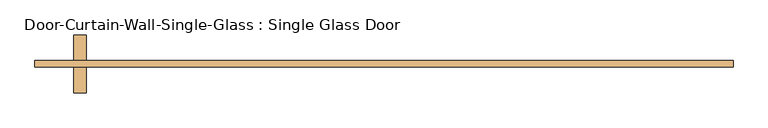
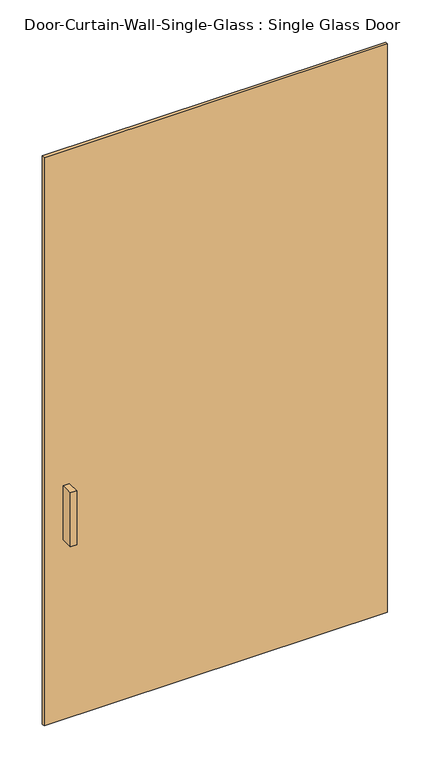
"""IFC4 building model written with IfcOpenShell, lengths in millimetres: door geometry, Door-Curtain-Wall-Single-Glass : Single Glass Door."""

from ifc_helpers import new_model, si_unit, frame, origin, origin_with_axes, place, context, project, spatial, polyline, outline, extrude, source, transform, mapped, element, save


def door_curtain_wall_single_glass_single_glass_door_969406ef(model_context):
    return source(origin(), model_context, "Body", "SweptSolid", [
        extrude(outline(polyline([(687.9166666, -50.8), (-687.9166666, -50.8), (-687.9166666, -38.1), (687.9166666, -38.1), (687.9166666, -50.8)])), origin_with_axes(), (0.0, 0.0, 1.0), 2406.65),
        extrude(outline(polyline([(-586.3166666, 12.7), (-586.3166666, -38.1), (-611.7166666, -38.1), (-611.7166666, 12.7), (-586.3166666, 12.7)])), frame((0.0, 0.0, 762.0), z_axis=(0.0, 0.0, 1.0), x_axis=(1.0, 0.0, 0.0)), (0.0, 0.0, 1.0), 228.6),
        extrude(outline(polyline([(-611.7166666, -101.6), (-611.7166666, -50.8), (-586.3166666, -50.8), (-586.3166666, -101.6), (-611.7166666, -101.6)])), frame((0.0, 0.0, 762.0), z_axis=(0.0, 0.0, 1.0), x_axis=(1.0, 0.0, 0.0)), (0.0, 0.0, 1.0), 228.6),
    ])


if __name__ == "__main__":
    model = new_model("IFC4")
    model_context = context("Model", 3, world=origin())
    ifc_project = project(units=[si_unit("LENGTHUNIT", "METRE", prefix="MILLI")], contexts=[model_context])
    site = spatial("IfcSite", under=ifc_project)
    building = spatial("IfcBuilding", under=site)
    placement = place(None, origin())
    door_curtain_wall_single_glass_single_glass_door_shape = door_curtain_wall_single_glass_single_glass_door_969406ef(model_context)
    element("IfcDoor", 1, ObjectType="Door-Curtain-Wall-Single-Glass : Single Glass Door", at=placement, inside=building, context=model_context, shape_type="MappedRepresentation", body=[
        mapped(door_curtain_wall_single_glass_single_glass_door_shape, transform((0.0, 0.0, 0.0), x_axis=(1.0, 0.0, 0.0), y_axis=(0.0, 1.0, 0.0), z_axis=(0.0, 0.0, 1.0))),
    ])
    save(model, "model.ifc")
